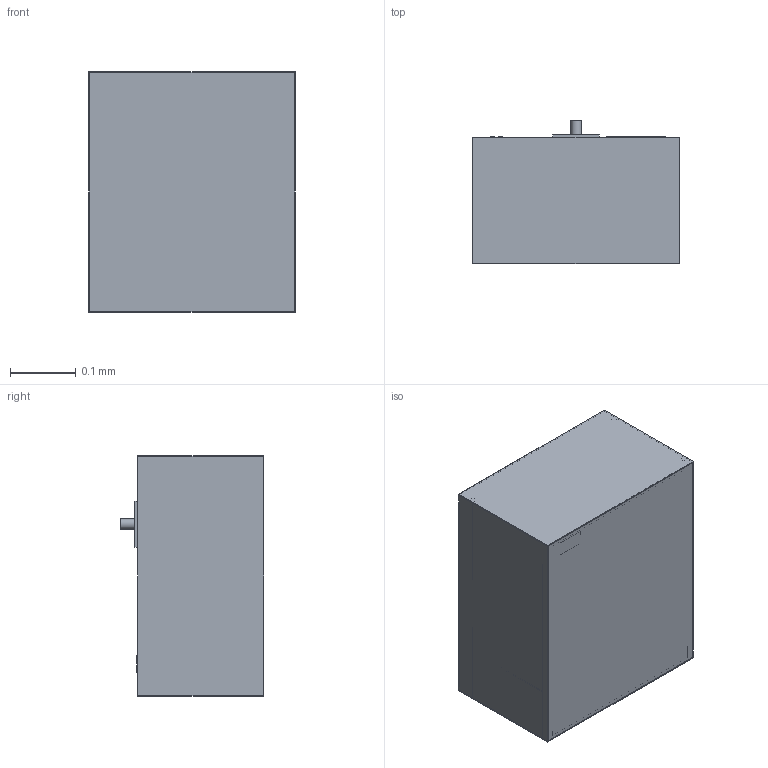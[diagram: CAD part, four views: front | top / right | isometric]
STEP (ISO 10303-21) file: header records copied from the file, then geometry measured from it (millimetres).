
FILE_DESCRIPTION(('Open CASCADE Model'),'2;1');
FILE_NAME('Open CASCADE Shape Model','2026-10-04T10:37:14',('Author'),( 'Open CASCADE'),'Open CASCADE STEP processor 7.9','Open CASCADE 7.9' ,'Unknown');
FILE_SCHEMA(('AUTOMOTIVE_DESIGN { 1 0 10303 214 1 1 1 1 }'));
Length unit declared in the file: millimetre
Products named in the file (168): MOD-antibiotic-resistance; electronics__controller_enclosure_boards_data_storage; electronics__connector_1; electronics__connector_2; fluid__medium_150_mL; fluid__medium_port; fluid__RNA_stabiliser_30_mL; fluid__RNA_stabiliser_port; fluid__alamarBlue_25_mL; fluid__alamarBlue_port; fluid__glutaraldehyde_20_mL; fluid__glutaraldehyde_port; fluid__lysis_buffer_20_mL; fluid__lysis_buffer_port; fluid__gentamicin_1_10_mL; fluid__gentamicin_1_port; fluid__gentamicin_2_10_mL; fluid__gentamicin_2_port; fluid__gentamicin_3_10_mL; fluid__gentamicin_3_port; fluid__waste_bag_empty_at_launch_170_mL_capacity_under_the_reagent_
bags; fluid__waste_bag_port; fluid__absorbent_secondary_tray; imaging__photodiode_board_24_photodiodes; imaging__photodiodes; imaging__LED_board_24_LEDs_at_570_and_600_nm; imaging__LEDs; imaging__board_spacer_1; imaging__board_spacer_2; imaging__board_spacer_3; imaging__board_spacer_4; sample__cassette_24_wells_SBS_footprint_19_3_mm_pitch; sample__culture_in_the_wells; sample__cassette_lid_sealed_and_gas_permeable; sample__cassette_fluid_port_1; sample__cassette_fluid_port_2; sensor__sensor_pack; sensor__sensor_pack_head_1; sensor__sensor_pack_head_2; sensor__active_silicon_dosimeter ...
Assembly tree (167 placements, depth 2):
  MOD-antibiotic-resistance
    electronics__controller_enclosure_boards_data_storage
    electronics__connector_1
    electronics__connector_2
    fluid__medium_150_mL
    fluid__medium_port
    fluid__RNA_stabiliser_30_mL
    fluid__RNA_stabiliser_port
    fluid__alamarBlue_25_mL
    fluid__alamarBlue_port
    fluid__glutaraldehyde_20_mL
    fluid__glutaraldehyde_port
    fluid__lysis_buffer_20_mL
    fluid__lysis_buffer_port
    fluid__gentamicin_1_10_mL
    fluid__gentamicin_1_port
    fluid__gentamicin_2_10_mL
    fluid__gentamicin_2_port
    fluid__gentamicin_3_10_mL
    fluid__gentamicin_3_port
    fluid__waste_bag_empty_at_launch_170_mL_capacity_under_the_reagent_
bags
    fluid__waste_bag_port
    fluid__absorbent_secondary_tray
    imaging__photodiode_board_24_photodiodes
    imaging__photodiodes
    imaging__LED_board_24_LEDs_at_570_and_600_nm
    imaging__LEDs
    imaging__board_spacer_1
    imaging__board_spacer_2
    imaging__board_spacer_3
    imaging__board_spacer_4
    sample__cassette_24_wells_SBS_footprint_19_3_mm_pitch
    sample__culture_in_the_wells
    sample__cassette_lid_sealed_and_gas_permeable
    sample__cassette_fluid_port_1
    sample__cassette_fluid_port_2
    sensor__sensor_pack
    sensor__sensor_pack_head_1
    sensor__sensor_pack_head_2
    sensor__active_silicon_dosimeter
    sensor__passive_TLD_holder
    pump__fluid_manifold
    pump__12_port_rotary_valve
    pump__rotary_valve_port_1
    pump__rotary_valve_port_2
    pump__rotary_valve_port_3
    pump__rotary_valve_port_4
    pump__rotary_valve_port_5
    pump__rotary_valve_port_6
    pump__rotary_valve_port_7
    pump__rotary_valve_port_8
    pump__rotary_valve_port_9
    pump__rotary_valve_port_10
    pump__rotary_valve_port_11
    pump__rotary_valve_port_12
    pump__peristaltic_pump_housing
    pump__peristaltic_roller_head
    pump__manifold_inlet
    pump__manifold_outlet
    housing__bottom_panel
Bounding box: 0.31 x 0.22 x 0.37 mm (x, y, z)
Volume: 0 mm3; surface area: 1.9 mm2
Topology: 237 solids, 237 shells, 1061 faces, 1686 edges, 1124 vertices
Faces by surface type: plane 851, cylinder 210
Full cylindrical faces by diameter (mm): 0.003 x81, 0.005 x29, 0.006 x8, 0.008 x2, 0.012 x3, 0.015 x24, 0.016 x25, 0.036 x1, 0.04 x1
Entity records: 50376 total; most frequent: DIRECTION 7900, CARTESIAN_POINT 7627, LINE 4218, VECTOR 4218, ORIENTED_EDGE 3372, PCURVE 3372, DEFINITIONAL_REPRESENTATION 3372, EDGE_CURVE 1686
